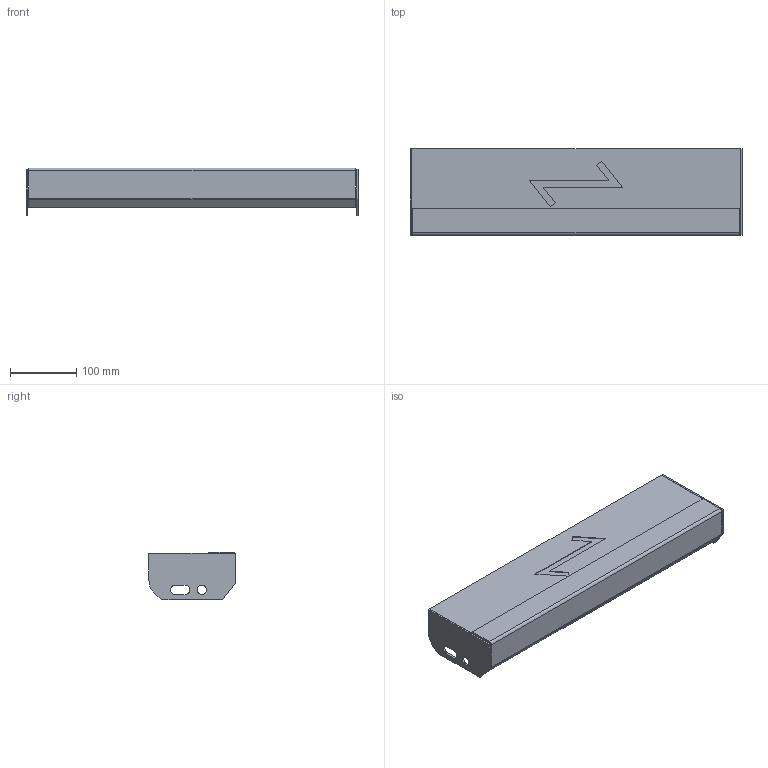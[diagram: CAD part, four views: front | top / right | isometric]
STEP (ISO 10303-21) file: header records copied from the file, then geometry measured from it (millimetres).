
FILE_DESCRIPTION (( 'STEP AP203' ), '1' );
FILE_NAME ('StegTH6-S-nya_steget-500x130.STEP', '2020-03-04T07:40:53', ( '' ), ( '' ), 'SwSTEP 2.0', 'SolidWorks 2019', '' );
FILE_SCHEMA (( 'CONFIG_CONTROL_DESIGN' ));
Length unit declared in the file: millimetre
Products named in the file (5): SW0000039237; SW0000039336; SW0000038721; StegTH6-S-nya_steget-500x130; SW0000038694
Assembly tree (5 placements, depth 3):
  StegTH6-S-nya_steget-500x130
    SW0000039336
      SW0000038721
      SW0000039237
      SW0000038694  x2
Bounding box: 500 x 130 x 72 mm (x, y, z)
Volume: 1190775.2 mm3; surface area: 263639.6 mm2
Topology: 4 solids, 4 shells, 67 faces, 158 edges, 100 vertices
Faces by surface type: plane 51, cylinder 16
Entity records: 2002 total; most frequent: DIRECTION 261, CARTESIAN_POINT 254, ORIENTED_EDGE 238, EDGE_CURVE 119, VECTOR 99, LINE 99, AXIS2_PLACEMENT_3D 81, VERTEX_POINT 74
